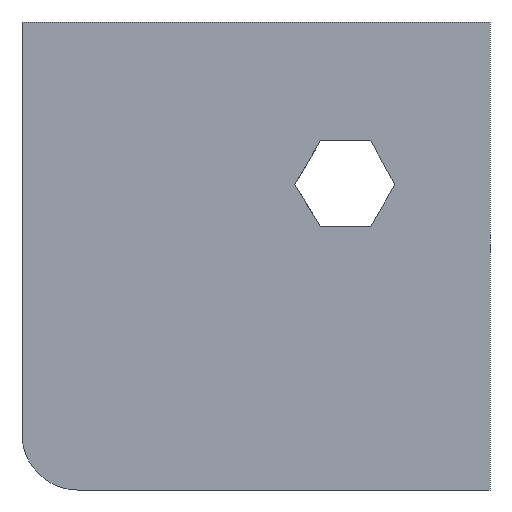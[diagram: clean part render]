
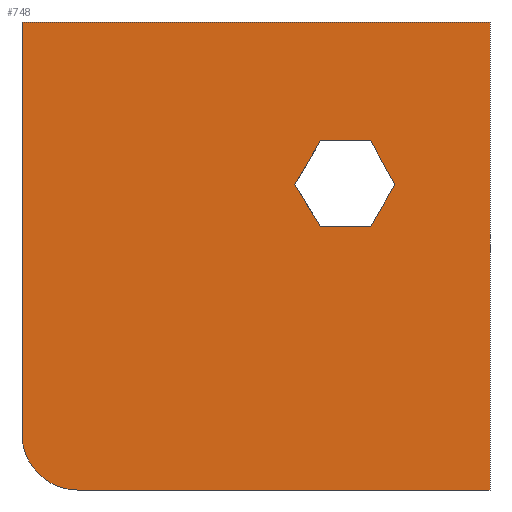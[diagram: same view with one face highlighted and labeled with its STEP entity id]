
A CAD part, front view. The second image highlights one B-rep face of the part: STEP entity #748.
In plain terms, the highlighted planar face has unit normal (0, -1, 0).
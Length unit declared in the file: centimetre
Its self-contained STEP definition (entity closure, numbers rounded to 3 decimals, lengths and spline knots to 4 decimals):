
#9 = DIRECTION ( 'NONE',  ( 1., 0., 0. ) ) ;
#17 = VECTOR ( 'NONE', #712, 100. ) ;
#20 = EDGE_CURVE ( 'NONE', #371, #629, #839, .T. ) ;
#38 = CARTESIAN_POINT ( 'NONE',  ( 745.0271, 0., 562.9623 ) ) ;
#48 = LINE ( 'NONE', #976, #17 ) ;
#70 = VERTEX_POINT ( 'NONE', #38 ) ;
#72 = VECTOR ( 'NONE', #832, 100. ) ;
#90 = EDGE_CURVE ( 'NONE', #896, #338, #48, .T. ) ;
#99 = CARTESIAN_POINT ( 'NONE',  ( 0., 0., 0. ) ) ;
#103 = VECTOR ( 'NONE', #374, 100. ) ;
#106 = CARTESIAN_POINT ( 'NONE',  ( 1000., 0., 0. ) ) ;
#107 = LINE ( 'NONE', #864, #503 ) ;
#115 = ORIENTED_EDGE ( 'NONE', *, *, #1235, .F. ) ;
#129 = VERTEX_POINT ( 'NONE', #318 ) ;
#130 = CARTESIAN_POINT ( 'NONE',  ( 745.0271, 0., 562.9623 ) ) ;
#136 = VERTEX_POINT ( 'NONE', #140 ) ;
#140 = CARTESIAN_POINT ( 'NONE',  ( 637.9361, 0., 562.9623 ) ) ;
#191 = LINE ( 'NONE', #481, #1105 ) ;
#214 = PLANE ( 'NONE',  #300 ) ;
#262 = CARTESIAN_POINT ( 'NONE',  ( 0., 0., 1000. ) ) ;
#263 = LINE ( 'NONE', #274, #103 ) ;
#274 = CARTESIAN_POINT ( 'NONE',  ( 1000., 0., 1000. ) ) ;
#288 = EDGE_CURVE ( 'NONE', #344, #1130, #289, .T. ) ;
#289 = LINE ( 'NONE', #673, #427 ) ;
#296 = EDGE_CURVE ( 'NONE', #629, #733, #579, .T. ) ;
#300 = AXIS2_PLACEMENT_3D ( 'NONE', #964, #1068, #499 ) ;
#302 = DIRECTION ( 'NONE',  ( -0.526, 0., 0.85 ) ) ;
#312 = FACE_BOUND ( 'NONE', #615, .T. ) ;
#315 = LINE ( 'NONE', #130, #841 ) ;
#316 = ORIENTED_EDGE ( 'NONE', *, *, #296, .T. ) ;
#318 = CARTESIAN_POINT ( 'NONE',  ( 0., 0., 1000. ) ) ;
#338 = VERTEX_POINT ( 'NONE', #593 ) ;
#339 = CARTESIAN_POINT ( 'NONE',  ( 0., 0., 119.0345 ) ) ;
#344 = VERTEX_POINT ( 'NONE', #426 ) ;
#346 = LINE ( 'NONE', #262, #72 ) ;
#363 = EDGE_CURVE ( 'NONE', #129, #992, #886, .T. ) ;
#371 = VERTEX_POINT ( 'NONE', #339 ) ;
#374 = DIRECTION ( 'NONE',  ( 0., 0., -1. ) ) ;
#411 = CARTESIAN_POINT ( 'NONE',  ( 1000., 0., 1000. ) ) ;
#426 = CARTESIAN_POINT ( 'NONE',  ( 582.5412, 0., 652.5025 ) ) ;
#427 = VECTOR ( 'NONE', #1047, 100. ) ;
#433 = ORIENTED_EDGE ( 'NONE', *, *, #90, .T. ) ;
#435 = DIRECTION ( 'NONE',  ( 1., 0., 0. ) ) ;
#453 = DIRECTION ( 'NONE',  ( 0., 0., 1. ) ) ;
#461 = EDGE_CURVE ( 'NONE', #70, #136, #315, .T. ) ;
#463 = ORIENTED_EDGE ( 'NONE', *, *, #916, .T. ) ;
#481 = CARTESIAN_POINT ( 'NONE',  ( 637.9361, 0., 746.3138 ) ) ;
#493 = EDGE_LOOP ( 'NONE', ( #1115, #804, #316, #115, #1104 ) ) ;
#499 = DIRECTION ( 'NONE',  ( 0., 0., 1. ) ) ;
#503 = VECTOR ( 'NONE', #302, 100. ) ;
#514 = EDGE_CURVE ( 'NONE', #338, #70, #824, .T. ) ;
#579 = LINE ( 'NONE', #99, #1076 ) ;
#593 = CARTESIAN_POINT ( 'NONE',  ( 796.7232, 0., 652.5025 ) ) ;
#615 = EDGE_LOOP ( 'NONE', ( #433, #990, #798, #463, #1083, #844 ) ) ;
#629 = VERTEX_POINT ( 'NONE', #753 ) ;
#630 = AXIS2_PLACEMENT_3D ( 'NONE', #1009, #1110, #453 ) ;
#640 = CARTESIAN_POINT ( 'NONE',  ( 796.7232, 0., 652.5025 ) ) ;
#673 = CARTESIAN_POINT ( 'NONE',  ( 582.5412, 0., 652.5025 ) ) ;
#696 = FACE_OUTER_BOUND ( 'NONE', #493, .T. ) ;
#712 = DIRECTION ( 'NONE',  ( 0.483, 0., -0.876 ) ) ;
#733 = VERTEX_POINT ( 'NONE', #106 ) ;
#748 = ADVANCED_FACE ( 'NONE', ( #312, #696 ), #214, .F. ) ;
#753 = CARTESIAN_POINT ( 'NONE',  ( 119.0345, 0., 0. ) ) ;
#798 = ORIENTED_EDGE ( 'NONE', *, *, #461, .T. ) ;
#804 = ORIENTED_EDGE ( 'NONE', *, *, #20, .T. ) ;
#824 = LINE ( 'NONE', #640, #825 ) ;
#825 = VECTOR ( 'NONE', #1117, 100. ) ;
#832 = DIRECTION ( 'NONE',  ( 0., 0., -1. ) ) ;
#839 = CIRCLE ( 'NONE', #630, 119.0345 ) ;
#841 = VECTOR ( 'NONE', #1072, 100. ) ;
#844 = ORIENTED_EDGE ( 'NONE', *, *, #889, .T. ) ;
#856 = VECTOR ( 'NONE', #435, 100. ) ;
#857 = CARTESIAN_POINT ( 'NONE',  ( 745.0271, 0., 746.3138 ) ) ;
#864 = CARTESIAN_POINT ( 'NONE',  ( 637.9361, 0., 562.9623 ) ) ;
#886 = LINE ( 'NONE', #1064, #856 ) ;
#889 = EDGE_CURVE ( 'NONE', #1130, #896, #191, .T. ) ;
#896 = VERTEX_POINT ( 'NONE', #857 ) ;
#916 = EDGE_CURVE ( 'NONE', #136, #344, #107, .T. ) ;
#925 = CARTESIAN_POINT ( 'NONE',  ( 637.9361, 0., 746.3138 ) ) ;
#957 = DIRECTION ( 'NONE',  ( 1., 0., 0. ) ) ;
#964 = CARTESIAN_POINT ( 'NONE',  ( 0., 0., 1000. ) ) ;
#976 = CARTESIAN_POINT ( 'NONE',  ( 745.0271, 0., 746.3138 ) ) ;
#990 = ORIENTED_EDGE ( 'NONE', *, *, #514, .T. ) ;
#992 = VERTEX_POINT ( 'NONE', #411 ) ;
#1009 = CARTESIAN_POINT ( 'NONE',  ( 119.0345, 0., 119.0345 ) ) ;
#1047 = DIRECTION ( 'NONE',  ( 0.508, 0., 0.861 ) ) ;
#1064 = CARTESIAN_POINT ( 'NONE',  ( 0., 0., 1000. ) ) ;
#1068 = DIRECTION ( 'NONE',  ( 0., 1., 0. ) ) ;
#1072 = DIRECTION ( 'NONE',  ( -1., 0., 0. ) ) ;
#1076 = VECTOR ( 'NONE', #957, 100. ) ;
#1083 = ORIENTED_EDGE ( 'NONE', *, *, #288, .T. ) ;
#1104 = ORIENTED_EDGE ( 'NONE', *, *, #363, .F. ) ;
#1105 = VECTOR ( 'NONE', #9, 100. ) ;
#1110 = DIRECTION ( 'NONE',  ( 0., -1., 0. ) ) ;
#1115 = ORIENTED_EDGE ( 'NONE', *, *, #1172, .T. ) ;
#1117 = DIRECTION ( 'NONE',  ( -0.5, 0., -0.866 ) ) ;
#1130 = VERTEX_POINT ( 'NONE', #925 ) ;
#1172 = EDGE_CURVE ( 'NONE', #129, #371, #346, .T. ) ;
#1235 = EDGE_CURVE ( 'NONE', #992, #733, #263, .T. ) ;
